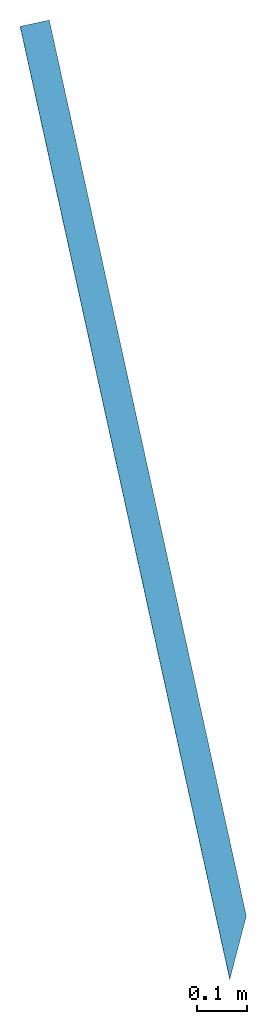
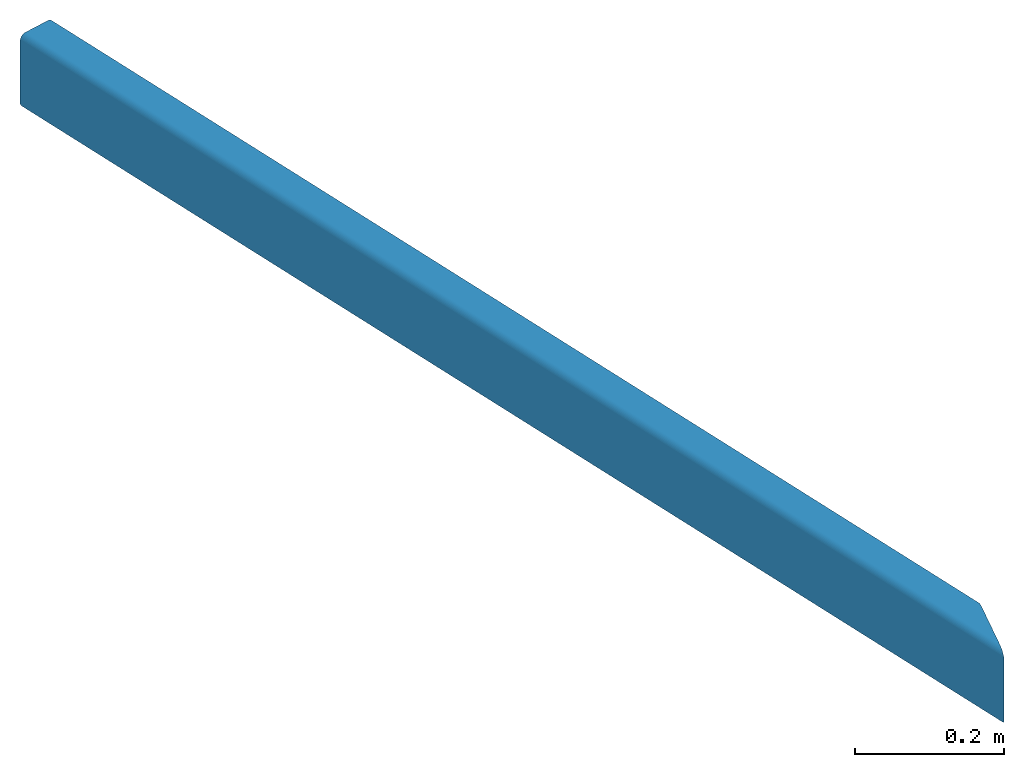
# One storey: 1 beam.
"""IFC2X3 building model written with IfcOpenShell, lengths in millimetres."""

import ifcopenshell
import ifcopenshell.guid

model = None  # the IFC model being written
_history = None  # IfcOwnerHistory: only IFC2X3 demands one
_inside = {}  # id of a spatial element -> (the spatial element, [elements in it])
_under = {}  # id of a project, library or spatial element -> (it, [spatial elements below it])
_declared = {}  # id of a project -> (the project, [libraries it declares])
_typed = {}  # id of a type object -> (the type object, [elements of that type])
_made_of = {}  # id of a material, layer set ... -> (it, [elements and type objects made of it])


def new_model(schema):
    """Start an empty IFC model of exactly this schema.

    Asked for "IFC4X3", IfcOpenShell would pick the latest addendum, in which some entities
    have other attributes; the version numbers below select the first issue.
    IFC2X3 requires an IfcOwnerHistory on every rooted entity: one is made here for all.
    """
    global model, _history
    if schema == "IFC4X3":
        model = ifcopenshell.file(schema_version=(4, 3, 0, 0))
    else:
        model = ifcopenshell.file(schema=schema)
    _inside.clear()
    _under.clear()
    _declared.clear()
    _typed.clear()
    _made_of.clear()
    _history = None
    if model.schema == "IFC2X3":
        org = make("IfcOrganization", Name="unknown")
        user = make(
            "IfcPersonAndOrganization",
            ThePerson=make("IfcPerson", FamilyName="unknown"),
            TheOrganization=org,
        )
        app = make(
            "IfcApplication",
            ApplicationDeveloper=org,
            Version="unknown",
            ApplicationFullName="unknown",
            ApplicationIdentifier="unknown",
        )
        _history = make(
            "IfcOwnerHistory",
            OwningUser=user,
            OwningApplication=app,
            ChangeAction="ADDED",
            CreationDate=0,
        )
    return model


def make(cls, **values):
    """One entity of the class cls with the attributes given. An attribute that is None is left unset."""
    return model.create_entity(
        cls, **{name: value for name, value in values.items() if value is not None}
    )


def entity(cls, *values):
    """Any entity or typed value of the class cls, its attributes in the order of the schema. None: left unset."""
    e = model.create_entity(cls)
    for i, value in enumerate(values):
        if value is not None:
            e[i] = value
    return e


def rooted(cls, **values):
    """An entity with a GlobalId (a new one), such as an element, a storey or a relation."""
    return make(cls, GlobalId=ifcopenshell.guid.new(), OwnerHistory=_history, **values)


def si_unit(unit_type, name, prefix=None):
    """IfcSIUnit, for example si_unit("LENGTHUNIT", "METRE", prefix="MILLI")."""
    return make("IfcSIUnit", UnitType=unit_type, Prefix=prefix, Name=name)


def converted_unit(unit_type, name, factor, base, dimensions=None, offset=None):
    """IfcConversionBasedUnit, such as the inch: factor (a typed value) times the base unit."""
    return make(
        "IfcConversionBasedUnit"
        if offset is None
        else "IfcConversionBasedUnitWithOffset",
        ConversionOffset=offset,
        Dimensions=None
        if dimensions is None
        else entity("IfcDimensionalExponents", *dimensions),
        UnitType=unit_type,
        Name=name,
        ConversionFactor=make(
            "IfcMeasureWithUnit", ValueComponent=factor, UnitComponent=base
        ),
    )


def derived_unit(unit_type, elements):
    """IfcDerivedUnit: a product of units, each with its exponent."""
    return make(
        "IfcDerivedUnit",
        Elements=[
            make("IfcDerivedUnitElement", Unit=unit, Exponent=power)
            for unit, power in elements
        ],
        UnitType=unit_type,
    )


def assignment(units):
    """IfcUnitAssignment: the units of a project."""
    return None if units is None else make("IfcUnitAssignment", Units=units)


def point(xyz):
    """IfcCartesianPoint."""
    return None if xyz is None else make("IfcCartesianPoint", Coordinates=xyz)


def direction(xyz):
    """IfcDirection."""
    return None if xyz is None else make("IfcDirection", DirectionRatios=xyz)


def frame(location, z_axis=None, x_axis=None):
    """IfcAxis2Placement3D, a coordinate frame: its origin and axes. An axis left out is left unset."""
    return make(
        "IfcAxis2Placement3D",
        Location=point(location),
        Axis=direction(z_axis),
        RefDirection=direction(x_axis),
    )


def origin():
    """The frame at (0, 0, 0) with its axes left unset."""
    return frame((0.0, 0.0, 0.0))


def origin_with_axes():
    """The frame at (0, 0, 0) with the z axis (0, 0, 1) and the x axis (1, 0, 0) written out."""
    return frame((0.0, 0.0, 0.0), z_axis=(0.0, 0.0, 1.0), x_axis=(1.0, 0.0, 0.0))


def place(relative_to, where):
    """IfcLocalPlacement: puts the frame where relative to a parent placement (None: the world)."""
    return make(
        "IfcLocalPlacement", PlacementRelTo=relative_to, RelativePlacement=where
    )


def context(
    kind, dimensions, precision=None, world=None, true_north=None, identifier=None
):
    """IfcGeometricRepresentationContext, for example the 3D "Model" context."""
    return make(
        "IfcGeometricRepresentationContext",
        ContextIdentifier=identifier,
        ContextType=kind,
        CoordinateSpaceDimension=dimensions,
        Precision=precision,
        WorldCoordinateSystem=world,
        TrueNorth=true_north,
    )


def subcontext(parent, identifier, kind, view, scale=None):
    """IfcGeometricRepresentationSubContext, for example "Body" below "Model"."""
    return make(
        "IfcGeometricRepresentationSubContext",
        ContextIdentifier=identifier,
        ContextType=kind,
        ParentContext=parent,
        TargetScale=scale,
        TargetView=view,
    )


def project(units=None, contexts=None):
    """IfcProject with its units and contexts."""
    return rooted(
        "IfcProject",
        Name="project",
        RepresentationContexts=contexts,
        UnitsInContext=assignment(units),
    )


def spatial(cls, under=None, at=None, **own):
    """A site, building, storey or space (cls), placed at a placement, below another one or the project."""
    s = rooted(cls, ObjectPlacement=at, **own)
    if under is not None:
        _under.setdefault(under.id(), (under, []))[1].append(s)
    return s


def faces_of(points, faces, orient=None, outer=None):
    """IfcFace entities. A face is a list of loops; a loop is a list of indices into points, from 0.

    orient and outer hold one flag for each loop. By default every Orientation is true, the
    first loop of a face is its IfcFaceOuterBound and the others are IfcFaceBound.
    """
    made = []
    for i, loops in enumerate(faces):
        bounds = []
        for j, loop in enumerate(loops):
            is_outer = j == 0 if outer is None else outer[i][j]
            bounds.append(
                make(
                    "IfcFaceOuterBound" if is_outer else "IfcFaceBound",
                    Bound=make("IfcPolyLoop", Polygon=[points[k] for k in loop]),
                    Orientation=True if orient is None else orient[i][j],
                )
            )
        made.append(make("IfcFace", Bounds=bounds))
    return made


def faceted_brep(points, faces, orient=None, outer=None, voids=None):
    """IfcFacetedBrep: a solid bounded by flat faces; with voids (closed shells), ...WithVoids."""
    shared = [point(p) for p in points]
    hull = make("IfcClosedShell", CfsFaces=faces_of(shared, faces, orient, outer))
    if voids is None:
        return make("IfcFacetedBrep", Outer=hull)
    return make(
        "IfcFacetedBrepWithVoids",
        Outer=hull,
        Voids=[
            make(cls, CfsFaces=faces_of(shared, fs, o, b)) for cls, fs, o, b in voids
        ],
    )


def shape(context_of_items, identifier, shape_type, items):
    """IfcShapeRepresentation: the items that make up one representation, for example the "Body"."""
    return make(
        "IfcShapeRepresentation",
        ContextOfItems=context_of_items,
        RepresentationIdentifier=identifier,
        RepresentationType=shape_type,
        Items=items,
    )


def made_of(thing, what):
    """Note that an element or type object is made of a material, layer set ...; save() writes the relation."""
    if what is not None:
        _made_of.setdefault(what.id(), (what, []))[1].append(thing)
    return thing


def type_object(cls, material=None, **own):
    """A type object (cls), such as IfcWallType, which elements share."""
    return made_of(rooted(cls, **own), material)


def element(
    cls,
    number,
    at=None,
    inside=None,
    cuts=None,
    type_object=None,
    material=None,
    context=None,
    identifier="Body",
    shape_type=None,
    held_by="IfcProductDefinitionShape",
    body=None,
    shapes=None,
    **own,
):
    """One element of the class cls, such as IfcWall. Its Tag is "e" and its number.

    at: its placement. inside: the storey or other place that contains it. cuts: it is an
    opening in that element (IfcRelVoidsElement). A single representation is given by context,
    identifier, shape_type and body (its items); several are given by shapes. held_by: the class
    of the entity that holds the representations. save() writes the other relations.
    """
    e = rooted(cls, Tag="e%d" % number, ObjectPlacement=at, **own)
    if body is not None:
        shapes = [shape(context, identifier, shape_type, body)]
    if shapes is not None:
        e.Representation = make(held_by, Representations=shapes)
    if inside is not None:
        _inside.setdefault(inside.id(), (inside, []))[1].append(e)
    if cuts is not None:
        rooted(
            "IfcRelVoidsElement", RelatingBuildingElement=cuts, RelatedOpeningElement=e
        )
    if type_object is not None:
        _typed.setdefault(type_object.id(), (type_object, []))[1].append(e)
    return made_of(e, material)


def aggregate(whole, parts):
    """IfcRelAggregates: a whole, such as a stair, and the parts it consists of."""
    return rooted("IfcRelAggregates", RelatingObject=whole, RelatedObjects=parts)


def save(model, path):
    """Write the relations noted so far, then the file.

    IfcRelAggregates (storeys below a building ...), IfcRelContainedInSpatialStructure (elements
    in a storey), IfcRelDefinesByType, IfcRelAssociatesMaterial and IfcRelDeclares: one each for
    every whole, place, type object, material and project.
    """
    for whole, parts in _under.values():
        aggregate(whole, parts)
    for where, things in _inside.values():
        rooted(
            "IfcRelContainedInSpatialStructure",
            RelatedElements=things,
            RelatingStructure=where,
        )
    for kind, things in _typed.values():
        rooted("IfcRelDefinesByType", RelatedObjects=things, RelatingType=kind)
    for what, things in _made_of.values():
        rooted("IfcRelAssociatesMaterial", RelatedObjects=things, RelatingMaterial=what)
    for by, libraries in _declared.values():
        rooted("IfcRelDeclares", RelatingContext=by, RelatedDefinitions=libraries)
    model.write(path)


model = new_model("IFC2X3")

# Units and contexts
plan_context = context("Plan", 3, precision=1e-05, world=origin_with_axes())
model_context = context("Model", 3, precision=0.01, world=origin(), true_north=direction((6.12323399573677e-17, 1.0)))
body_context = subcontext(model_context, "Body", "Model", "MODEL_VIEW")
ifc_project = project(units=[converted_unit("PLANEANGLEUNIT", "DEGREE", entity("IfcPositiveLengthMeasure", 0.0174532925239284), si_unit("PLANEANGLEUNIT", "RADIAN"), dimensions=[0, 0, 0, 0, 0, 0, 0]), si_unit("AREAUNIT", "SQUARE_METRE"), si_unit("LENGTHUNIT", "METRE", prefix="MILLI"), si_unit("MASSUNIT", "GRAM", prefix="KILO"), si_unit("POWERUNIT", "WATT"), si_unit("PRESSUREUNIT", "PASCAL", prefix="KILO"), si_unit("FORCEUNIT", "NEWTON", prefix="KILO"), si_unit("ELECTRICVOLTAGEUNIT", "VOLT"), si_unit("ELECTRICCURRENTUNIT", "AMPERE"), si_unit("THERMODYNAMICTEMPERATUREUNIT", "DEGREE_CELSIUS"), si_unit("TIMEUNIT", "SECOND"), si_unit("VOLUMEUNIT", "CUBIC_METRE"), derived_unit("LINEARVELOCITYUNIT", [(si_unit("LENGTHUNIT", "METRE"), 1), (si_unit("TIMEUNIT", "SECOND"), -1)]), derived_unit("VOLUMETRICFLOWRATEUNIT", [(si_unit("VOLUMEUNIT", "CUBIC_METRE"), 1), (si_unit("TIMEUNIT", "SECOND"), -1)]), derived_unit("THERMALTRANSMITTANCEUNIT", [(si_unit("POWERUNIT", "WATT"), 1), (si_unit("THERMODYNAMICTEMPERATUREUNIT", "KELVIN"), -1), (si_unit("AREAUNIT", "SQUARE_METRE"), -1)]), derived_unit("SOUNDPRESSUREUNIT", [(si_unit("PRESSUREUNIT", "PASCAL"), 1)])], contexts=[model_context, plan_context])

# Site, building, storey
site_placement = place(None, frame((0.0, 0.0, 0.0), z_axis=(0.0, 0.0, 1.0), x_axis=(0.214788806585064, -0.976660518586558, 0.0)))
site = spatial("IfcSite", under=ifc_project, at=site_placement, Name="Default", CompositionType="ELEMENT")
building_placement = place(site_placement, origin_with_axes())
building = spatial("IfcBuilding", under=site, at=building_placement, CompositionType="ELEMENT")
storey_placement = place(building_placement, frame((0.0, 0.0, 9300.0), z_axis=(0.0, 0.0, 1.0), x_axis=(1.0, 0.0, 0.0)))
storey = spatial("IfcBuildingStorey", under=building, at=storey_placement, Name="PLAN 02. ETG", CompositionType="ELEMENT", Elevation=9300.0)

# Beam
beam_type = type_object("IfcBeamType", Name="NO_S-Frame_Steel_RHS (EN 10219-2_Cold formed welded):CF-RHS120x60x5", PredefinedType="NOTDEFINED")
beam_placement = place(storey_placement, frame((-186378.261440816, 374677.738386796, -1029.0), z_axis=(0.0, 0.0, 1.0), x_axis=(1.0, 0.0, 0.0)))
element("IfcBeam", 1, at=beam_placement, inside=storey, type_object=beam_type, Name="NO_S-Frame_Steel_RHS (EN 10219-2_Cold formed welded):CF-RHS120x60x5", ObjectType="NO_S-Frame_Steel_RHS (EN 10219-2_Cold formed welded):CF-RHS120x60x5", context=body_context, shape_type="Brep", body=[
    faceted_brep([(1934.25597534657, -20.7821723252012, -5.06155829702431), (1932.71884918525, -20.0, -5.0), (1.55021278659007e-06, -20.0, -5.0), (1.55021278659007e-06, -20.7821723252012, -5.06155829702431), (1854.11079253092, 20.0, -5.0), (1.55021278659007e-06, 20.0, -5.0), (1852.5736663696, 20.7821723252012, -5.06155829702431), (1.55021278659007e-06, 20.7821723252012, -5.06155829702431), (1851.0743893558, 21.5450849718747, -5.24471741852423), (1.55021278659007e-06, 21.5450849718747, -5.24471741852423), (1849.64987866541, 22.2699524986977, -5.54496737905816), (1.55021278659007e-06, 22.2699524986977, -5.54496737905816), (1848.33521047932, 22.9389262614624, -5.95491502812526), (1.55021278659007e-06, 22.9389262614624, -5.95491502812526), (1847.1627562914, 23.5355339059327, -6.46446609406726), (1.55021278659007e-06, 23.5355339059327, -6.46446609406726), (1846.1613858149, 24.0450849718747, -7.06107373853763), (1.55021278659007e-06, 24.0450849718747, -7.06107373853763), (1845.35575611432, 24.4550326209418, -7.73004750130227), (1.55021278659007e-06, 24.4550326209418, -7.73004750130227), (1844.76570446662, 24.7552825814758, -8.45491502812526), (1.55021278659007e-06, 24.7552825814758, -8.45491502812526), (1844.40575990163, 24.9384417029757, -9.21782767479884), (1.55021278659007e-06, 24.9384417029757, -9.21782767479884), (1844.28478544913, 25.0, -10.0), (1.55021278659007e-06, 25.0, -10.0), (1844.28478544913, 25.0, -110.0), (1.55021278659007e-06, 25.0, -110.0), (1844.43406457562, 24.924038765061, -110.868240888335), (1.55021278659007e-06, 24.924038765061, -110.868240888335), (1844.87736618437, 24.6984631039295, -111.710100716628), (1.55021278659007e-06, 24.6984631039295, -111.710100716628), (1845.60122078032, 24.3301270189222, -112.5), (1.55021278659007e-06, 24.3301270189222, -112.5), (1846.58363440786, 23.8302222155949, -113.213938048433), (1.55021278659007e-06, 23.8302222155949, -113.213938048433), (1847.79475692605, 23.2139380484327, -113.830222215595), (1.55021278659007e-06, 23.2139380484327, -113.830222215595), (1849.19778899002, 22.5, -114.330127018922), (1.55021278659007e-06, 22.5, -114.330127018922), (1850.75010018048, 21.7101007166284, -114.69846310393), (1.55021278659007e-06, 21.7101007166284, -114.69846310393), (1852.40452430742, 20.8682408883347, -114.924038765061), (1.55021278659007e-06, 20.8682408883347, -114.924038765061), (1854.11079253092, 20.0, -115.0), (1.55021278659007e-06, 20.0, -115.0), (1932.71884918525, -20.0, -115.0), (1.55021278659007e-06, -20.0, -115.0), (1934.25597534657, -20.7821723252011, -114.938441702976), (1.55021278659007e-06, -20.7821723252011, -114.938441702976), (1935.75525236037, -21.5450849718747, -114.755282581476), (1.55021278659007e-06, -21.5450849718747, -114.755282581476), (1937.17976305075, -22.2699524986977, -114.455032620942), (1.55021278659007e-06, -22.2699524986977, -114.455032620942), (1938.49443123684, -22.9389262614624, -114.045084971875), (1.55021278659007e-06, -22.9389262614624, -114.045084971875), (1939.66688542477, -23.5355339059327, -113.535533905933), (1.55021278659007e-06, -23.5355339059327, -113.535533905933), (1940.66825590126, -24.0450849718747, -112.938926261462), (1.55021278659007e-06, -24.0450849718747, -112.938926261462), (1941.47388560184, -24.4550326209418, -112.269952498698), (1.55021278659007e-06, -24.4550326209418, -112.269952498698), (1942.06393724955, -24.7552825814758, -111.545084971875), (1.55021278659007e-06, -24.7552825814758, -111.545084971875), (1942.42388181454, -24.9384417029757, -110.782172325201), (1.55021278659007e-06, -24.9384417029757, -110.782172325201), (1942.54485626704, -25.0, -110.0), (1.55021278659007e-06, -25.0, -110.0), (1942.54485626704, -25.0, -10.0), (1.55021278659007e-06, -25.0, -10.0), (1942.42388181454, -24.9384417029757, -9.21782767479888), (1.55021278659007e-06, -24.9384417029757, -9.21782767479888), (1942.06393724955, -24.7552825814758, -8.4549150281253), (1.55021278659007e-06, -24.7552825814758, -8.4549150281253), (1941.47388560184, -24.4550326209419, -7.73004750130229), (1.55021278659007e-06, -24.4550326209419, -7.73004750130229), (1940.66825590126, -24.0450849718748, -7.06107373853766), (1.55021278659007e-06, -24.0450849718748, -7.06107373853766), (1939.66688542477, -23.5355339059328, -6.46446609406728), (1.55021278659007e-06, -23.5355339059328, -6.46446609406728), (1938.49443123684, -22.9389262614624, -5.95491502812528), (1.55021278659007e-06, -22.9389262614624, -5.95491502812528), (1937.17976305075, -22.2699524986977, -5.54496737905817), (1.55021278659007e-06, -22.2699524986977, -5.54496737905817), (1935.75525236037, -21.5450849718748, -5.24471741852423), (1.55021278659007e-06, -21.5450849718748, -5.24471741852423), (1834.45877836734, 30.0, -110.0), (1834.45877836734, 30.0, -9.99999999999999), (1.55021278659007e-06, 30.0, -9.99999999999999), (1.55021278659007e-06, 30.0, -110.0), (1834.70072727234, 29.8768834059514, -8.43565534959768), (1.55021278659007e-06, 29.8768834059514, -8.43565534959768), (1835.42061640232, 29.5105651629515, -6.90983005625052), (1.55021278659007e-06, 29.5105651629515, -6.90983005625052), (1836.60071969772, 28.9100652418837, -5.46009500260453), (1.55021278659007e-06, 28.9100652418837, -5.46009500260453), (1838.21197909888, 28.0901699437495, -4.12214747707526), (1.55021278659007e-06, 28.0901699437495, -4.12214747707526), (1840.21472005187, 27.0710678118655, -2.92893218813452), (1.55021278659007e-06, 27.0710678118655, -2.92893218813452), (1842.55962842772, 25.8778525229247, -1.90983005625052), (1.55021278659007e-06, 25.8778525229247, -1.90983005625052), (1845.1889647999, 24.5399049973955, -1.08993475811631), (1.55021278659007e-06, 24.5399049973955, -1.08993475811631), (1848.03798618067, 23.0901699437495, -0.489434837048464), (1.55021278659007e-06, 23.0901699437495, -0.489434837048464), (1851.03654020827, 21.5643446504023, -0.123116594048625), (1.55021278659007e-06, 21.5643446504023, -0.123116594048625), (1854.11079253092, 20.0, 0.0), (1.55021278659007e-06, 20.0, 0.0), (1932.71884918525, -20.0, 0.0), (1.55021278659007e-06, -20.0, 0.0), (1936.13138563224, -21.7364817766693, -0.151922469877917), (1.55021278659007e-06, -21.7364817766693, -0.151922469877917), (1939.44023388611, -23.4202014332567, -0.603073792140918), (1.55021278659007e-06, -23.4202014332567, -0.603073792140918), (1942.54485626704, -25.0, -1.33974596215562), (1.55021278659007e-06, -25.0, -1.33974596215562), (1945.35092039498, -26.4278760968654, -2.33955556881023), (1.55021278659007e-06, -26.4278760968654, -2.33955556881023), (1947.77316543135, -27.6604444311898, -3.57212390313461), (1.55021278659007e-06, -27.6604444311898, -3.57212390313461), (1949.73799268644, -28.6602540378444, -5.0), (1.55021278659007e-06, -28.6602540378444, -5.0), (1951.18570187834, -29.3969262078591, -6.57979856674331), (1.55021278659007e-06, -29.3969262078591, -6.57979856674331), (1952.07230509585, -29.8480775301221, -8.2635182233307), (1.55021278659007e-06, -29.8480775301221, -8.2635182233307), (1952.37086334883, -30.0, -10.0), (1.55021278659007e-06, -30.0, -10.0), (1952.37086334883, -30.0, -110.0), (1.55021278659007e-06, -30.0, -110.0), (1952.07230509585, -29.8480775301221, -111.736481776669), (1.55021278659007e-06, -29.8480775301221, -111.736481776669), (1951.18570187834, -29.3969262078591, -113.420201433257), (1.55021278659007e-06, -29.3969262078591, -113.420201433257), (1949.73799268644, -28.6602540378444, -115.0), (1.55021278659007e-06, -28.6602540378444, -115.0), (1947.77316543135, -27.6604444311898, -116.427876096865), (1.55021278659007e-06, -27.6604444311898, -116.427876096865), (1945.35092039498, -26.4278760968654, -117.66044443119), (1.55021278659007e-06, -26.4278760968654, -117.66044443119), (1942.54485626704, -25.0, -118.660254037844), (1.55021278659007e-06, -25.0, -118.660254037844), (1939.44023388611, -23.4202014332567, -119.396926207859), (1.55021278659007e-06, -23.4202014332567, -119.396926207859), (1936.13138563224, -21.7364817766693, -119.848077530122), (1.55021278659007e-06, -21.7364817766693, -119.848077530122), (1932.71884918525, -20.0, -120.0), (1.55021278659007e-06, -20.0, -120.0), (1854.11079253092, 20.0, -120.0), (1.55021278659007e-06, 20.0, -120.0), (1850.69825608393, 21.7364817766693, -119.848077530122), (1.55021278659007e-06, 21.7364817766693, -119.848077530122), (1847.38940783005, 23.4202014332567, -119.396926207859), (1.55021278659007e-06, 23.4202014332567, -119.396926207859), (1844.28478544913, 25.0, -118.660254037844), (1.55021278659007e-06, 25.0, -118.660254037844), (1841.47872132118, 26.4278760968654, -117.66044443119), (1.55021278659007e-06, 26.4278760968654, -117.66044443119), (1839.05647628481, 27.6604444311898, -116.427876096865), (1.55021278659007e-06, 27.6604444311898, -116.427876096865), (1837.09164902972, 28.6602540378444, -115.0), (1.55021278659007e-06, 28.6602540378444, -115.0), (1835.64393983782, 29.3969262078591, -113.420201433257), (1.55021278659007e-06, 29.3969262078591, -113.420201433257), (1834.75733662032, 29.8480775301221, -111.736481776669), (1.55021278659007e-06, 29.8480775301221, -111.736481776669)], [[[0, 1, 2, 3]], [[1, 4, 5, 2]], [[4, 6, 7, 5]], [[6, 8, 9, 7]], [[8, 10, 11, 9]], [[10, 12, 13, 11]], [[12, 14, 15, 13]], [[14, 16, 17, 15]], [[16, 18, 19, 17]], [[18, 20, 21, 19]], [[20, 22, 23, 21]], [[22, 24, 25, 23]], [[24, 26, 27, 25]], [[26, 28, 29, 27]], [[28, 30, 31, 29]], [[30, 32, 33, 31]], [[32, 34, 35, 33]], [[34, 36, 37, 35]], [[36, 38, 39, 37]], [[38, 40, 41, 39]], [[40, 42, 43, 41]], [[42, 44, 45, 43]], [[44, 46, 47, 45]], [[46, 48, 49, 47]], [[48, 50, 51, 49]], [[50, 52, 53, 51]], [[52, 54, 55, 53]], [[54, 56, 57, 55]], [[56, 58, 59, 57]], [[58, 60, 61, 59]], [[60, 62, 63, 61]], [[62, 64, 65, 63]], [[64, 66, 67, 65]], [[66, 68, 69, 67]], [[68, 70, 71, 69]], [[70, 72, 73, 71]], [[72, 74, 75, 73]], [[74, 76, 77, 75]], [[76, 78, 79, 77]], [[78, 80, 81, 79]], [[80, 82, 83, 81]], [[82, 84, 85, 83]], [[84, 0, 3, 85]], [[86, 87, 88, 89]], [[87, 90, 91, 88]], [[90, 92, 93, 91]], [[92, 94, 95, 93]], [[94, 96, 97, 95]], [[96, 98, 99, 97]], [[98, 100, 101, 99]], [[100, 102, 103, 101]], [[102, 104, 105, 103]], [[104, 106, 107, 105]], [[106, 108, 109, 107]], [[108, 110, 111, 109]], [[110, 112, 113, 111]], [[112, 114, 115, 113]], [[114, 116, 117, 115]], [[116, 118, 119, 117]], [[118, 120, 121, 119]], [[120, 122, 123, 121]], [[122, 124, 125, 123]], [[124, 126, 127, 125]], [[126, 128, 129, 127]], [[128, 130, 131, 129]], [[130, 132, 133, 131]], [[132, 134, 135, 133]], [[134, 136, 137, 135]], [[136, 138, 139, 137]], [[138, 140, 141, 139]], [[140, 142, 143, 141]], [[142, 144, 145, 143]], [[144, 146, 147, 145]], [[146, 148, 149, 147]], [[148, 150, 151, 149]], [[150, 152, 153, 151]], [[152, 154, 155, 153]], [[154, 156, 157, 155]], [[156, 158, 159, 157]], [[158, 160, 161, 159]], [[160, 162, 163, 161]], [[162, 164, 165, 163]], [[164, 166, 167, 165]], [[166, 86, 89, 167]], [[89, 88, 91, 93, 95, 97, 99, 101, 103, 105, 107, 109, 111, 113, 115, 117, 119, 121, 123, 125, 127, 129, 131, 133, 135, 137, 139, 141, 143, 145, 147, 149, 151, 153, 155, 157, 159, 161, 163, 165, 167], [3, 2, 5, 7, 9, 11, 13, 15, 17, 19, 21, 23, 25, 27, 29, 31, 33, 35, 37, 39, 41, 43, 45, 47, 49, 51, 53, 55, 57, 59, 61, 63, 65, 67, 69, 71, 73, 75, 77, 79, 81, 83, 85]], [[166, 164, 162, 160, 158, 156, 154, 152, 150, 148, 146, 144, 142, 140, 138, 136, 134, 132, 130, 128, 126, 124, 122, 120, 118, 116, 114, 112, 110, 108, 106, 104, 102, 100, 98, 96, 94, 92, 90, 87, 86], [84, 82, 80, 78, 76, 74, 72, 70, 68, 66, 64, 62, 60, 58, 56, 54, 52, 50, 48, 46, 44, 42, 40, 38, 36, 34, 32, 30, 28, 26, 24, 22, 20, 18, 16, 14, 12, 10, 8, 6, 4, 1, 0]]], orient=[[False], [False], [False], [False], [False], [False], [False], [False], [False], [False], [False], [False], [False], [False], [False], [False], [False], [False], [False], [False], [False], [False], [False], [False], [False], [False], [False], [False], [False], [False], [False], [False], [False], [False], [False], [False], [False], [False], [False], [False], [False], [False], [False], [False], [False], [False], [False], [False], [False], [False], [False], [False], [False], [False], [False], [False], [False], [False], [False], [False], [False], [False], [False], [False], [False], [False], [False], [False], [False], [False], [False], [False], [False], [False], [False], [False], [False], [False], [False], [False], [False], [False], [False], [False], [False, False], [False, False]]),
])

save(model, "model.ifc")
